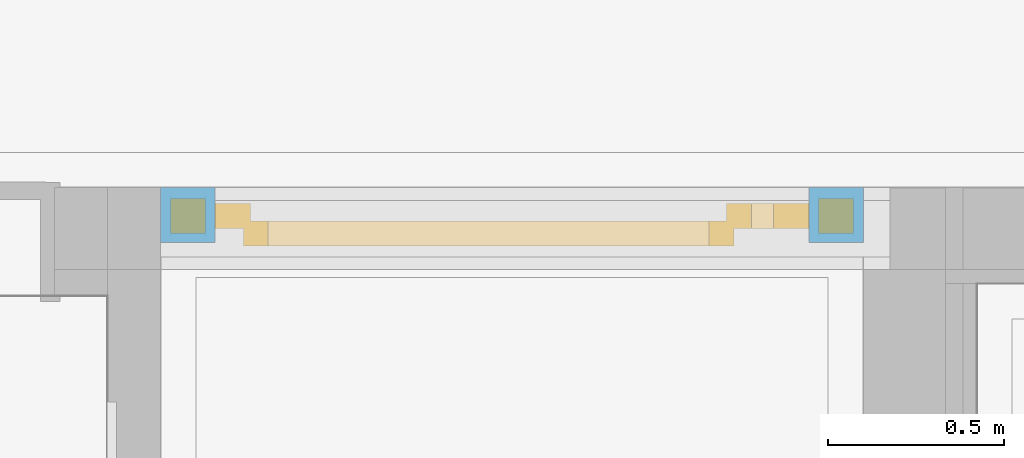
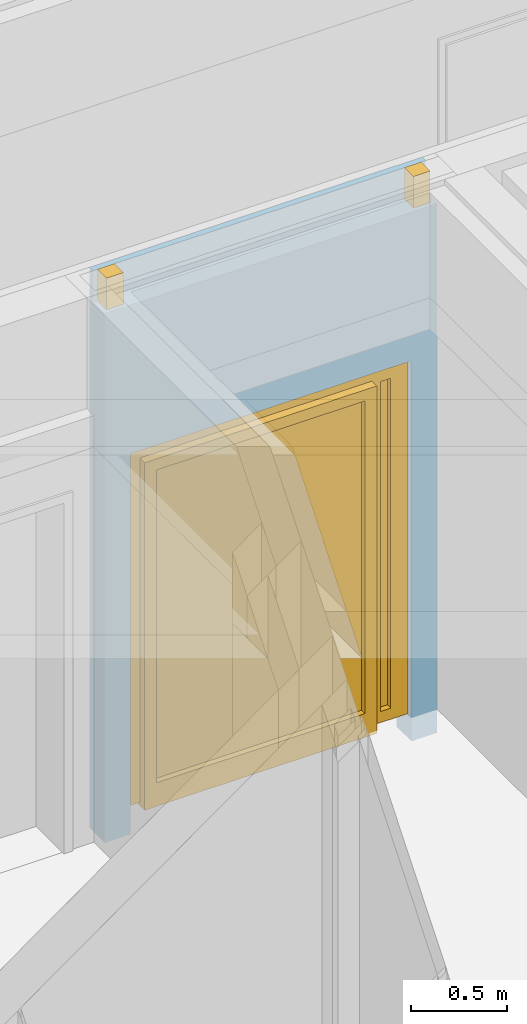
# One storey, part 73 of 222: 1 door, 1 opening, plus 1 element that does not belong to this part.
"""IFC4 building model written with IfcOpenShell, lengths in metres."""

from ifc_helpers import new_model, entity, si_unit, converted_unit, derived_unit, frame, frame_2d, origin, origin_with_axes, place, context, subcontext, project, spatial, polyline, rectangle, outline, extrude, clip, bounded_halfspace, closed_shell, open_shell, faceted_brep, surface_model, source, transform, mapped, material, type_object, element, fill, save


model = new_model("IFC4")

# Units and contexts
model_context = context("Model", 3, precision=1e-05, world=origin())
body_context = subcontext(model_context, "Body", "Model", "MODEL_VIEW")
ifc_project = project(units=[si_unit("LENGTHUNIT", "METRE"), si_unit("AREAUNIT", "SQUARE_METRE"), si_unit("VOLUMEUNIT", "CUBIC_METRE"), si_unit("MASSUNIT", "GRAM", prefix="KILO"), converted_unit("PLANEANGLEUNIT", "DEGREE", entity("IfcPlaneAngleMeasure", 0.0174532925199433), si_unit("PLANEANGLEUNIT", "RADIAN"), dimensions=[0, 0, 0, 0, 0, 0, 0]), derived_unit("THERMALTRANSMITTANCEUNIT", [(si_unit("POWERUNIT", "WATT"), 1), (si_unit("THERMODYNAMICTEMPERATUREUNIT", "KELVIN"), -1), (si_unit("LENGTHUNIT", "METRE"), -2)]), derived_unit("VOLUMETRICFLOWRATEUNIT", [(si_unit("LENGTHUNIT", "METRE"), 3), (converted_unit("TIMEUNIT", "hour", entity("IfcTimeMeasure", 3600.0), si_unit("TIMEUNIT", "SECOND"), dimensions=[0, 0, 1, 0, 0, 0, 0]), -1), (si_unit("LENGTHUNIT", "METRE"), -1)])], contexts=[model_context])

# Site, building, storey
site_placement = place(None, origin())
site = spatial("IfcSite", under=ifc_project, at=site_placement, Name="Psychiatrie Neubau Wunstorf", CompositionType="ELEMENT")
building_placement = place(site_placement, origin())
building = spatial("IfcBuilding", under=site, at=building_placement, Name="Neubau H2 Stationsgebäude", CompositionType="ELEMENT")
storey_placement = place(building_placement, frame((0.0, 0.0, 3.6)))
storey = spatial("IfcBuildingStorey", under=building, at=storey_placement, Name="H2 Ebene +1", CompositionType="ELEMENT", Elevation=3.6)

# Wall, opening, door
ifc_material_1 = material(Name="WI-LW 60")
wall_placement = place(storey_placement, frame((9.9175, 21.836, 0.0), z_axis=(0.0, 0.0, 1.0), x_axis=(-1.0, 0.0, 0.0)))
wall = element("IfcWall", 1, at=wall_placement, inside=storey, material=ifc_material_1, context=body_context, shape_type="Clipping", body=[
    clip(extrude(rectangle(XDim=1.9925, YDim=0.155, at=frame_2d((0.99625, 0.0775), x_axis=(1.0, 0.0))), origin_with_axes(), (0.0, 0.0, 1.0), 3.55), bounded_halfspace(frame((0.99625, 0.0955, 3.35), z_axis=(0.0, 0.0, -1.0), x_axis=(-1.0, 0.0, 0.0)), True, origin_with_axes(), polyline([(1.9925, 0.155), (0.0, 0.155), (0.0, 0.036), (1.9925, 0.036), (1.9925, 0.155)]))),
])
opening_placement = place(wall_placement, frame((1.8375, 0.155, 0.0), z_axis=(0.0, -1.0, 0.0), x_axis=(0.0, 0.0, 1.0)))
opening = element("IfcOpeningElement", 2, at=opening_placement, cuts=wall, Name="Türöffnung", ObjectType="Opening", context=body_context, shape_type="SweptSolid", body=[
    extrude(outline(polyline([(2.41, 1.6825), (2.41, 0.0), (0.0, 0.0), (0.0, 1.6825), (2.41, 1.6825)])), origin_with_axes(), (0.0, 0.0, 1.0), 0.155),
])
ifc_material_2 = material(Name="TI-2F-AG-D-O")
door_type = type_object("IfcDoorType", Name="SMT", OperationType="NOTDEFINED", ParameterTakesPrecedence=False, PredefinedType="DOOR")
shared_shape_1 = source(origin_with_axes(), body_context, "Body", "Brep", [
    faceted_brep([(1.81, 0.025, 0.0), (1.81, 0.125, 0.0), (1.71, 0.125, 0.0), (1.71, 0.025, 0.0), (1.81, 0.125, 3.55), (1.81, 0.025, 3.55), (1.71, 0.025, 3.55), (1.71, 0.125, 3.55)], [[[0, 1, 2, 3]], [[4, 5, 6, 7]], [[1, 0, 5, 4]], [[2, 1, 4, 7]], [[3, 2, 7, 6]], [[0, 3, 6, 5]]], orient=[[False], [False], [False], [False], [False], [False]]),
    faceted_brep([(-0.0275, 0.025, 0.0), (-0.0275, 0.125, 0.0), (-0.1275, 0.125, 0.0), (-0.1275, 0.025, 0.0), (-0.0275, 0.125, 3.55), (-0.0275, 0.025, 3.55), (-0.1275, 0.025, 3.55), (-0.1275, 0.125, 3.55)], [[[0, 1, 2, 3]], [[4, 5, 6, 7]], [[1, 0, 5, 4]], [[2, 1, 4, 7]], [[3, 2, 7, 6]], [[0, 3, 6, 5]]], orient=[[False], [False], [False], [False], [False], [False]]),
    faceted_brep([(1.71, 0.025, 2.4375), (1.71, 0.125, 2.4375), (-0.0275, 0.125, 2.4375), (-0.0275, 0.025, 2.4375), (1.71, 0.125, 2.5375), (1.71, 0.025, 2.5375), (-0.0275, 0.025, 2.5375), (-0.0275, 0.125, 2.5375)], [[[0, 1, 2, 3]], [[4, 5, 6, 7]], [[1, 0, 5, 4]], [[2, 1, 4, 7]], [[3, 2, 7, 6]], [[0, 3, 6, 5]]], orient=[[False], [False], [False], [False], [False], [False]]),
])
shared_shape_2 = source(origin_with_axes(), body_context, "Body", "SurfaceModel", [
    surface_model("IfcShellBasedSurfaceModel", [(1.6825, 0.11, 2.41), (1.5825, 0.11, 2.41), (1.5825, 0.11, 0.15), (1.6825, 0.11, 0.15), (1.6825, 0.04, 0.15), (1.5825, 0.04, 0.15), (1.5825, 0.04, 2.41), (1.6825, 0.04, 2.41)], [closed_shell([[[0, 1, 2, 3]], [[4, 5, 6, 7]], [[3, 4, 7, 0]], [[2, 5, 4, 3]], [[1, 6, 5, 2]], [[0, 7, 6, 1]]], orient=[[False], [False], [False], [False], [False], [False]])]),
    surface_model("IfcShellBasedSurfaceModel", [(0.1, 0.11, 2.41), (0.0, 0.11, 2.41), (0.0, 0.11, 0.15), (0.1, 0.11, 0.15), (0.1, 0.04, 0.15), (0.0, 0.04, 0.15), (0.0, 0.04, 2.41), (0.1, 0.04, 2.41)], [closed_shell([[[0, 1, 2, 3]], [[4, 5, 6, 7]], [[3, 4, 7, 0]], [[2, 5, 4, 3]], [[1, 6, 5, 2]], [[0, 7, 6, 1]]], orient=[[False], [False], [False], [False], [False], [False]])]),
    surface_model("IfcShellBasedSurfaceModel", [(1.5825, 0.11, 2.41), (0.1, 0.11, 2.41), (0.1, 0.11, 2.31), (1.5825, 0.11, 2.31), (1.5825, 0.04, 2.31), (0.1, 0.04, 2.31), (0.1, 0.04, 2.41), (1.5825, 0.04, 2.41)], [closed_shell([[[0, 1, 2, 3]], [[4, 5, 6, 7]], [[3, 4, 7, 0]], [[2, 5, 4, 3]], [[1, 6, 5, 2]], [[0, 7, 6, 1]]], orient=[[False], [False], [False], [False], [False], [False]])]),
    surface_model("IfcShellBasedSurfaceModel", [(1.52, 0.11, 2.31), (1.45, 0.11, 2.31), (1.45, 0.11, 0.15), (1.52, 0.11, 0.15), (1.52, 0.04, 0.15), (1.45, 0.04, 0.15), (1.45, 0.04, 2.31), (1.52, 0.04, 2.31)], [closed_shell([[[0, 1, 2, 3]], [[4, 5, 6, 7]], [[3, 4, 7, 0]], [[2, 5, 4, 3]], [[1, 6, 5, 2]], [[0, 7, 6, 1]]], orient=[[False], [False], [False], [False], [False], [False]])]),
    surface_model("IfcShellBasedSurfaceModel", [(1.5825, 0.11, 0.22), (1.52, 0.11, 0.22), (1.52, 0.11, 0.15), (1.5825, 0.11, 0.15), (1.5825, 0.04, 0.15), (1.52, 0.04, 0.15), (1.52, 0.04, 0.22), (1.5825, 0.04, 0.22)], [closed_shell([[[0, 1, 2, 3]], [[4, 5, 6, 7]], [[3, 4, 7, 0]], [[2, 5, 4, 3]], [[1, 6, 5, 2]], [[0, 7, 6, 1]]], orient=[[False], [False], [False], [False], [False], [False]])]),
    surface_model("IfcShellBasedSurfaceModel", [(1.47, 0.06, 2.33), (1.4, 0.06, 2.33), (1.4, 0.06, 0.13), (1.47, 0.06, 0.13), (1.47, -0.01, 0.13), (1.4, -0.01, 0.13), (1.4, -0.01, 2.33), (1.47, -0.01, 2.33)], [closed_shell([[[0, 1, 2, 3]], [[4, 5, 6, 7]], [[3, 4, 7, 0]], [[2, 5, 4, 3]], [[1, 6, 5, 2]], [[0, 7, 6, 1]]], orient=[[False], [False], [False], [False], [False], [False]])]),
    surface_model("IfcShellBasedSurfaceModel", [(0.149999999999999, 0.06, 2.33), (0.08, 0.06, 2.33), (0.08, 0.06, 0.13), (0.149999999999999, 0.06, 0.13), (0.149999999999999, -0.01, 0.13), (0.08, -0.01, 0.13), (0.08, -0.01, 2.33), (0.149999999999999, -0.01, 2.33)], [closed_shell([[[0, 1, 2, 3]], [[4, 5, 6, 7]], [[3, 4, 7, 0]], [[2, 5, 4, 3]], [[1, 6, 5, 2]], [[0, 7, 6, 1]]], orient=[[False], [False], [False], [False], [False], [False]])]),
    surface_model("IfcShellBasedSurfaceModel", [(1.4, 0.06, 0.28), (0.149999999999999, 0.06, 0.28), (0.149999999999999, 0.06, 0.13), (1.4, 0.06, 0.13), (1.4, -0.01, 0.13), (0.149999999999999, -0.01, 0.13), (0.149999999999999, -0.01, 0.28), (1.4, -0.01, 0.28)], [closed_shell([[[0, 1, 2, 3]], [[4, 5, 6, 7]], [[3, 4, 7, 0]], [[2, 5, 4, 3]], [[1, 6, 5, 2]], [[0, 7, 6, 1]]], orient=[[False], [False], [False], [False], [False], [False]])]),
    surface_model("IfcShellBasedSurfaceModel", [(1.4, 0.06, 2.33), (0.149999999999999, 0.06, 2.33), (0.149999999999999, 0.06, 2.26), (1.4, 0.06, 2.26), (1.4, -0.01, 2.26), (0.149999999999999, -0.01, 2.26), (0.149999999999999, -0.01, 2.33), (1.4, -0.01, 2.33)], [closed_shell([[[0, 1, 2, 3]], [[4, 5, 6, 7]], [[3, 4, 7, 0]], [[2, 5, 4, 3]], [[1, 6, 5, 2]], [[0, 7, 6, 1]]], orient=[[False], [False], [False], [False], [False], [False]])]),
    surface_model("IfcShellBasedSurfaceModel", [(1.4, 0.025, 0.28), (1.4, 0.025, 2.26), (0.149999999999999, 0.025, 2.26), (0.149999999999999, 0.025, 0.28)], [open_shell([[[0, 1, 2, 3]]], orient=[[False]])]),
    surface_model("IfcShellBasedSurfaceModel", [(1.5825, 0.075, 0.22), (1.5825, 0.075, 2.31), (1.52, 0.075, 2.31), (1.52, 0.075, 0.22)], [open_shell([[[0, 1, 2, 3]]], orient=[[False]])]),
])
door_placement = place(opening_placement, frame((0.0, 0.0, 0.0), z_axis=(1.0, 0.0, 0.0), x_axis=(0.0, 1.0, 0.0)))
door = element("IfcDoor", 3, at=door_placement, inside=storey, type_object=door_type, material=ifc_material_2, Name="SMT", OverallHeight=2.41, OverallWidth=1.6825, context=body_context, shape_type="MappedRepresentation", body=[
    mapped(shared_shape_1, transform((0.0, 0.0, 0.0), x_axis=(1.0, 0.0, 0.0), y_axis=(0.0, 1.0, 0.0), z_axis=(0.0, 0.0, 1.0), scale=1.0)),
    mapped(shared_shape_2, transform((0.0, 0.0, 0.0), x_axis=(1.0, 0.0, 0.0), y_axis=(0.0, 1.0, 0.0), z_axis=(0.0, 0.0, 1.0), scale=1.0)),
])
fill(opening, door)

save(model, "model.ifc")
